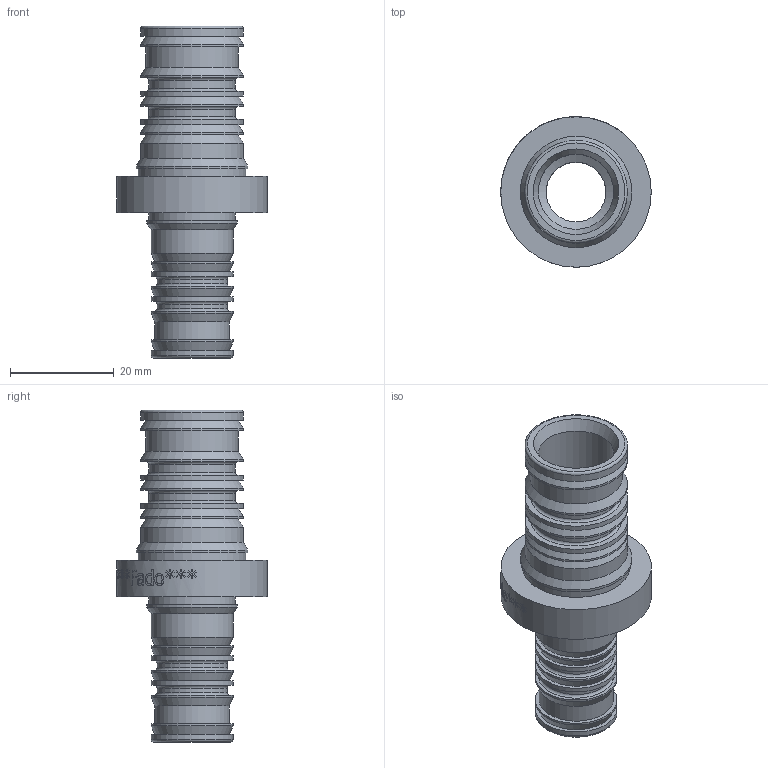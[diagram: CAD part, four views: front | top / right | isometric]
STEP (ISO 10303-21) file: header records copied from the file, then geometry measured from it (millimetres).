
FILE_DESCRIPTION(/* description */ (''),/* implementation_level */ '2;1');
FILE_NAME(/* name */ 'C:\Users\Doom\Desktop\Фадотех\Пресс\HDM05 26x20 Coupler 31.03.2020\HDM05 26x20 Coupler 31.03.2020_1.stp',/* time_stamp */ '2022-08-11T11:56:40+03:00',/* author */ ('Doom'),/* organization */ (''),/* preprocessor_version */ 'ST-DEVELOPER v18',/* originating_system */ 'Autodesk Inventor 2020',/* authorisation */ '');
FILE_SCHEMA (('AUTOMOTIVE_DESIGN { 1 0 10303 214 3 1 1 }'));
Length unit declared in the file: millimetre
Products named in the file (1): 16 Model 18.12.2019
Bounding box: 29.01 x 29.01 x 64 mm (x, y, z)
Volume: 9152.2 mm3; surface area: 8427.9 mm2
Topology: 1 solids, 1 shells, 334 faces, 934 edges, 642 vertices
Faces by surface type: bspline 184, plane 78, cylinder 47, cone 15, torus 10
Full cylindrical faces by diameter (mm): 11.5 x1, 13.5 x2, 14.3 x1, 14.5 x1, 15.8 x8, 16.6 x3, 17.5 x1, 17.8 x1, 19.8 x8, 20.8 x1, 21.5 x1, 29 x1
Entity records: 13884 total; most frequent: CARTESIAN_POINT 6195, ORIENTED_EDGE 1868, DIRECTION 1114, EDGE_CURVE 934, VERTEX_POINT 642, AXIS2_PLACEMENT_3D 397, EDGE_LOOP 376, B_SPLINE_CURVE_WITH_KNOTS 368
